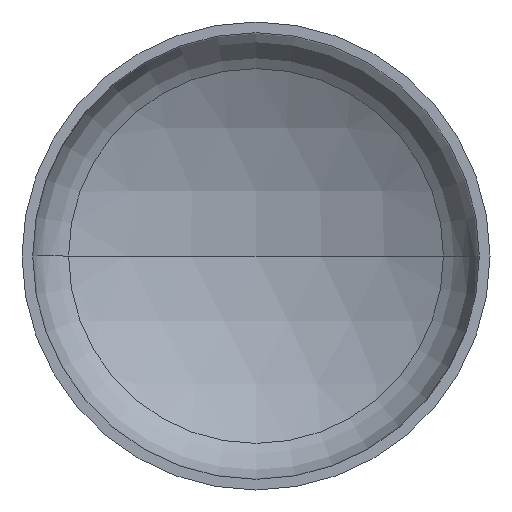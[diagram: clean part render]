
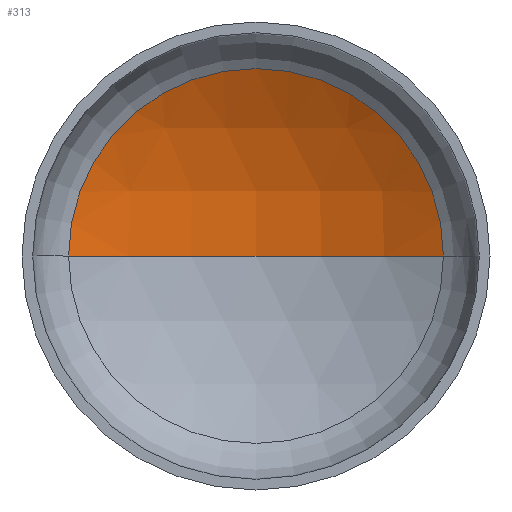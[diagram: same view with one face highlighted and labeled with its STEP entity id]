
A CAD part, front view. The second image highlights one B-rep face of the part: STEP entity #313.
In plain terms, the highlighted spherical face has radius 2240 mm.
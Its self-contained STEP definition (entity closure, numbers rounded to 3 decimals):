
#1 = CIRCLE ( 'NONE', #57, 1121.238 ) ;
#2 = EDGE_LOOP ( 'NONE', ( #65, #52, #8 ) ) ;
#8 = ORIENTED_EDGE ( 'NONE', *, *, #120, .T. ) ;
#16 = AXIS2_PLACEMENT_3D ( 'NONE', #306, #370, #311 ) ;
#37 = VERTEX_POINT ( 'NONE', #191 ) ;
#39 = CARTESIAN_POINT ( 'NONE',  ( 1121.238, 492.254, 0. ) ) ;
#50 = AXIS2_PLACEMENT_3D ( 'NONE', #267, #266, #264 ) ;
#52 = ORIENTED_EDGE ( 'NONE', *, *, #126, .T. ) ;
#54 = AXIS2_PLACEMENT_3D ( 'NONE', #284, #282, #273 ) ;
#57 = AXIS2_PLACEMENT_3D ( 'NONE', #393, #280, #275 ) ;
#65 = ORIENTED_EDGE ( 'NONE', *, *, #143, .F. ) ;
#74 = VERTEX_POINT ( 'NONE', #347 ) ;
#110 = VERTEX_POINT ( 'NONE', #39 ) ;
#120 = EDGE_CURVE ( 'NONE', #110, #74, #1, .T. ) ;
#126 = EDGE_CURVE ( 'NONE', #37, #110, #354, .T. ) ;
#143 = EDGE_CURVE ( 'NONE', #37, #74, #295, .T. ) ;
#167 = SPHERICAL_SURFACE ( 'NONE', #16, 2240. ) ;
#191 = CARTESIAN_POINT ( 'NONE',  ( 0., 793.072, 0. ) ) ;
#264 = DIRECTION ( 'NONE',  ( 1., 0., 0. ) ) ;
#266 = DIRECTION ( 'NONE',  ( 0., 0., 1. ) ) ;
#267 = CARTESIAN_POINT ( 'NONE',  ( 0., -1446.928, 0. ) ) ;
#273 = DIRECTION ( 'NONE',  ( -1., 0., 0. ) ) ;
#275 = DIRECTION ( 'NONE',  ( 1., 0., 0. ) ) ;
#278 = FACE_OUTER_BOUND ( 'NONE', #2, .T. ) ;
#280 = DIRECTION ( 'NONE',  ( 0., -1., 0. ) ) ;
#282 = DIRECTION ( 'NONE',  ( 0., 0., -1. ) ) ;
#284 = CARTESIAN_POINT ( 'NONE',  ( 0., -1446.928, 0. ) ) ;
#295 = CIRCLE ( 'NONE', #50, 2240. ) ;
#306 = CARTESIAN_POINT ( 'NONE',  ( 0., -1446.928, 0. ) ) ;
#311 = DIRECTION ( 'NONE',  ( -1., 0., 0. ) ) ;
#313 = ADVANCED_FACE ( 'NONE', ( #278 ), #167, .F. ) ;
#347 = CARTESIAN_POINT ( 'NONE',  ( -1121.238, 492.254, 0. ) ) ;
#354 = CIRCLE ( 'NONE', #54, 2240. ) ;
#370 = DIRECTION ( 'NONE',  ( 0., 0., -1. ) ) ;
#393 = CARTESIAN_POINT ( 'NONE',  ( 0., 492.254, 0. ) ) ;
